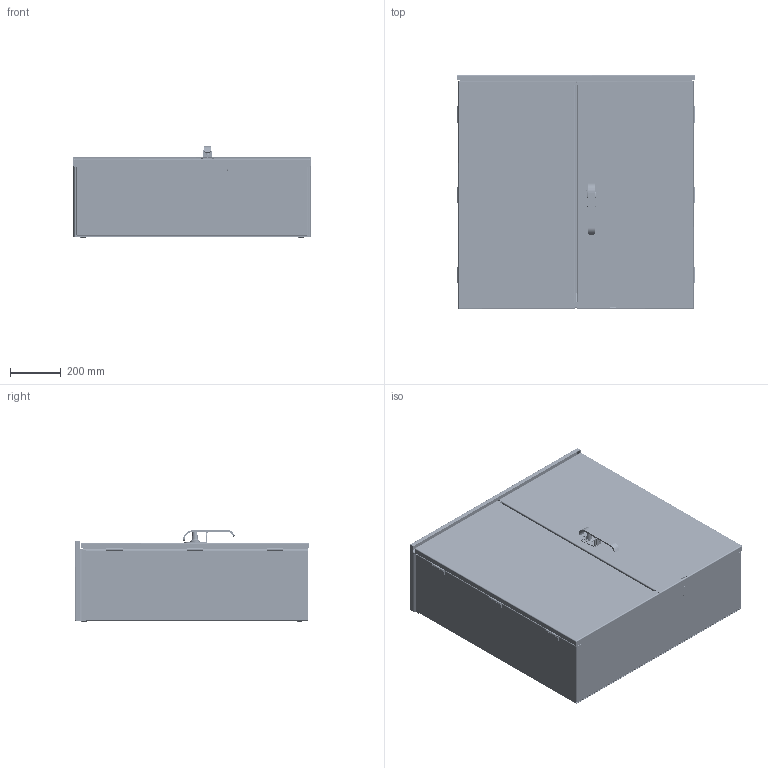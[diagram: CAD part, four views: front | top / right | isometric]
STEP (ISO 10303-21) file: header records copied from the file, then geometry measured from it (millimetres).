
FILE_DESCRIPTION (( 'STEP AP203' ), '1' );
FILE_NAME ('a800nect.STEP', '2011-11-02T14:45:48', ( 'Hoffman User' ), ( 'Hoffman Enclosures' ), 'SwSTEP 2.0', 'SolidWorks 2010', '' );
FILE_SCHEMA (( 'CONFIG_CONTROL_DESIGN' ));
Length unit declared in the file: inch
Products named in the file (54): a800nect; 89071224; 87789926; 89070936; 87789928; 87789930; 87785571; 99407147_99407147; 89070627; 87789922; 87780173; 89070628; 87789924; 87780175; 27301001; 87787340; 87787344; 87788786; 87787346; 87787338; 87787335; 87786308; 87785786; 87787242; 87784318; 99412100; 99404462; 87780091; 87784372; 87780090; 87540452; 87780097; 99401328; 99409676_SCR,PNHDSM;10-32X.250; 22108004; 26118002_26118002; 27140001; 87548145; L36_hasp_locking_dm; L36_sq_shaft_dm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
Assembly tree (198 placements, depth 4):
  a800nect
    87548145
      L36_spindle_dm
      L36_sq_shaft_dm
      L36_hasp_locking_dm
      L36_handle_dm
      L36_base_plate_dm
    87794321_87794321
      30101003  x2
      87794319_87794319
      22318002
      27115001
    87799886_87799886
      22318002
      27115001
      30101003  x2
      87799887_87799887
    89071224
      87785571
      87780173  x3
      99407147_99407147  x6
      87780175  x3
      89070936
        99407147_99407147  x2
        87789928
      87789926
      87789930
    89070627
      87780173  x3
      87789922
    89070628
      27301001  x2
      87780175  x3
      87789924
    26123010
    26123007_26123007 
    27140001
    27115004  x2
    87787340
      87784318  x14
      99412100  x14
      99404462  x28
      87780091  x14
      87780090  x12
      87540452  x12
      99401328
      87787338  x3
        87786308
        87785786
      87787335  x3
        87785786
        87786308
      87784372  x14
      87780097  x12
      87787344
        87788786
        87787346
      87787242
      99409676_SCR,PNHDSM;10-32X.250
    26118002_26118002  x2
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Bounding box: 933.83 x 920.67 x 359.66 mm (x, y, z)
Volume: 9057329.9 mm3; surface area: 7907943.1 mm2
Topology: 218 solids, 219 shells, 6609 faces, 16201 edges, 10074 vertices
Faces by surface type: plane 3053, cylinder 1822, cone 924, sphere 440, bspline 202, torus 168
Entity records: 86027 total; most frequent: CARTESIAN_POINT 26318, ORIENTED_EDGE 10382, DIRECTION 10313, EDGE_CURVE 5193, AXIS2_PLACEMENT_3D 3785, VERTEX_POINT 3247, VECTOR 2743, LINE 2743
